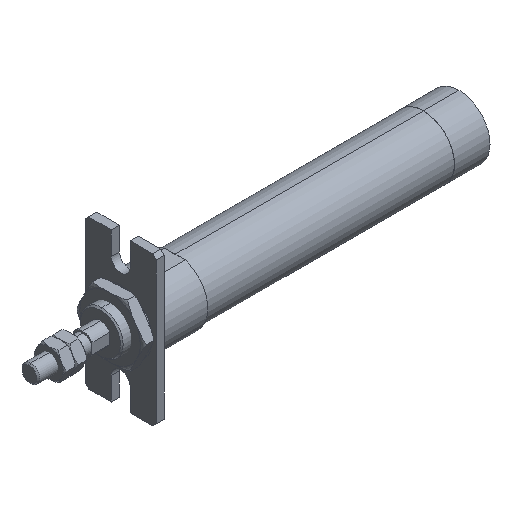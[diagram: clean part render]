
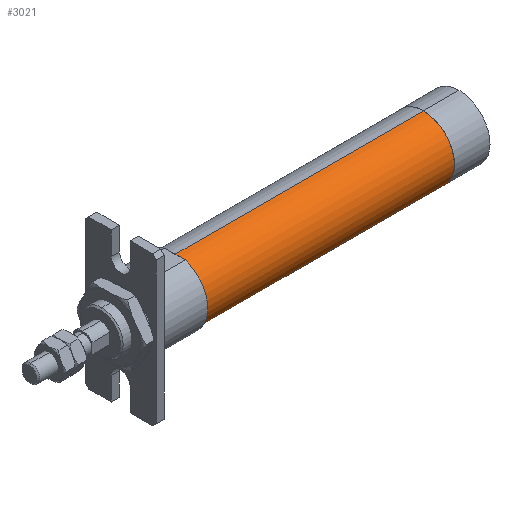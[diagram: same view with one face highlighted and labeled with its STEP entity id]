
A CAD part, isometric view. The second image highlights one B-rep face of the part: STEP entity #3021.
In plain terms, the highlighted cylindrical face has radius 8.7 mm (diameter 17.4 mm), a partial arc.
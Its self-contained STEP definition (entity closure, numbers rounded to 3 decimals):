
#259 = EDGE_CURVE ( 'NONE', #2646, #3399, #3261, .T. ) ;
#294 = CARTESIAN_POINT ( 'NONE',  ( 0., 0., -8.7 ) ) ;
#402 = CARTESIAN_POINT ( 'NONE',  ( 0., 0., 0. ) ) ;
#408 = EDGE_LOOP ( 'NONE', ( #1129, #2570, #3017, #3100 ) ) ;
#409 = DIRECTION ( 'NONE',  ( -1., 0., 0. ) ) ;
#507 = LINE ( 'NONE', #959, #932 ) ;
#563 = CIRCLE ( 'NONE', #3431, 8.7 ) ;
#591 = CYLINDRICAL_SURFACE ( 'NONE', #1495, 8.7 ) ;
#693 = DIRECTION ( 'NONE',  ( -1., 0., 0. ) ) ;
#851 = AXIS2_PLACEMENT_3D ( 'NONE', #2271, #3447, #925 ) ;
#925 = DIRECTION ( 'NONE',  ( 0., 0., 1. ) ) ;
#932 = VECTOR ( 'NONE', #693, 1000. ) ;
#959 = CARTESIAN_POINT ( 'NONE',  ( 0., 0., 8.7 ) ) ;
#1020 = VERTEX_POINT ( 'NONE', #1724 ) ;
#1054 = EDGE_CURVE ( 'NONE', #3399, #1020, #2272, .T. ) ;
#1129 = ORIENTED_EDGE ( 'NONE', *, *, #259, .F. ) ;
#1495 = AXIS2_PLACEMENT_3D ( 'NONE', #402, #3253, #3059 ) ;
#1554 = DIRECTION ( 'NONE',  ( -1., 0., 0. ) ) ;
#1724 = CARTESIAN_POINT ( 'NONE',  ( 41., 0., 8.7 ) ) ;
#1845 = VERTEX_POINT ( 'NONE', #1956 ) ;
#1956 = CARTESIAN_POINT ( 'NONE',  ( 111., 0., 8.7 ) ) ;
#2051 = DIRECTION ( 'NONE',  ( 0., 0., 1. ) ) ;
#2271 = CARTESIAN_POINT ( 'NONE',  ( 41., 0., 0. ) ) ;
#2272 = CIRCLE ( 'NONE', #851, 8.7 ) ;
#2308 = EDGE_CURVE ( 'NONE', #1845, #1020, #507, .T. ) ;
#2570 = ORIENTED_EDGE ( 'NONE', *, *, #2676, .T. ) ;
#2646 = VERTEX_POINT ( 'NONE', #3413 ) ;
#2676 = EDGE_CURVE ( 'NONE', #2646, #1845, #563, .T. ) ;
#2839 = VECTOR ( 'NONE', #409, 1000. ) ;
#2923 = CARTESIAN_POINT ( 'NONE',  ( 41., 0., -8.7 ) ) ;
#3017 = ORIENTED_EDGE ( 'NONE', *, *, #2308, .T. ) ;
#3021 = ADVANCED_FACE ( 'NONE', ( #3627 ), #591, .T. ) ;
#3059 = DIRECTION ( 'NONE',  ( 0., 0., 1. ) ) ;
#3100 = ORIENTED_EDGE ( 'NONE', *, *, #1054, .F. ) ;
#3221 = CARTESIAN_POINT ( 'NONE',  ( 111., 0., 0. ) ) ;
#3253 = DIRECTION ( 'NONE',  ( -1., 0., 0. ) ) ;
#3261 = LINE ( 'NONE', #294, #2839 ) ;
#3399 = VERTEX_POINT ( 'NONE', #2923 ) ;
#3413 = CARTESIAN_POINT ( 'NONE',  ( 111., 0., -8.7 ) ) ;
#3431 = AXIS2_PLACEMENT_3D ( 'NONE', #3221, #1554, #2051 ) ;
#3447 = DIRECTION ( 'NONE',  ( -1., 0., 0. ) ) ;
#3627 = FACE_OUTER_BOUND ( 'NONE', #408, .T. ) ;
